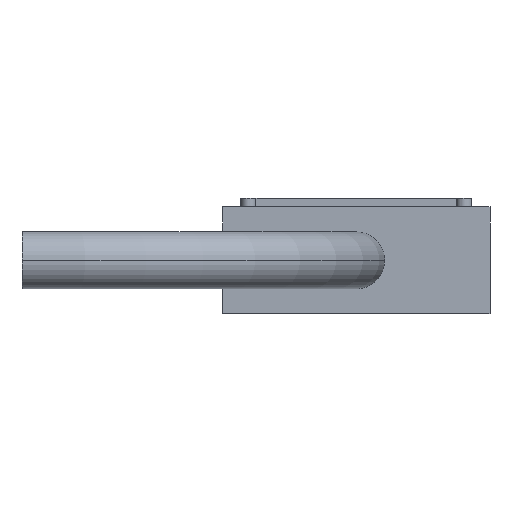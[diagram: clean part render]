
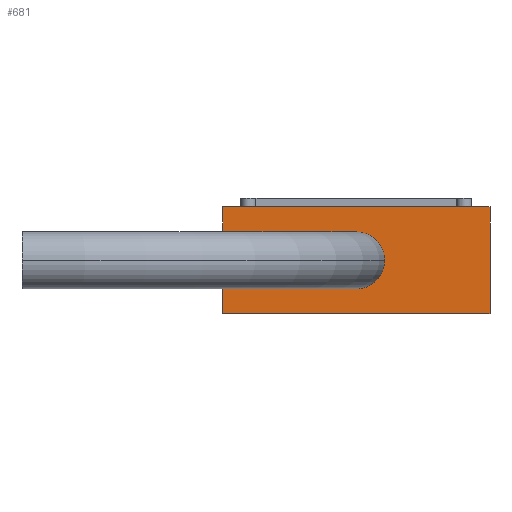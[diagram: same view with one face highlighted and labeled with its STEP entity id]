
A CAD part, front view. The second image highlights one B-rep face of the part: STEP entity #681.
In plain terms, the highlighted planar face has unit normal (0, -1, 0).
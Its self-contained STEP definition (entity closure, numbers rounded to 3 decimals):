
#31 = VECTOR ( 'NONE', #1766, 1000. ) ;
#66 = AXIS2_PLACEMENT_3D ( 'NONE', #1727, #1758, #1759 ) ;
#104 = AXIS2_PLACEMENT_3D ( 'NONE', #2257, #2258, #2259 ) ;
#143 = VECTOR ( 'NONE', #1889, 1000. ) ;
#159 = VECTOR ( 'NONE', #1763, 1000. ) ;
#169 = VECTOR ( 'NONE', #1904, 1000. ) ;
#261 = AXIS2_PLACEMENT_3D ( 'NONE', #1214, #1215, #1216 ) ;
#276 = FACE_BOUND ( 'NONE', #3287, .T. ) ;
#421 = FACE_OUTER_BOUND ( 'NONE', #3288, .T. ) ;
#681 = ADVANCED_FACE ( 'NONE', ( #276, #421 ), #1213, .T. ) ;
#850 = EDGE_CURVE ( 'NONE', #2514, #2522, #1039, .T. ) ;
#851 = EDGE_CURVE ( 'NONE', #2604, #2607, #1761, .T. ) ;
#852 = EDGE_CURVE ( 'NONE', #2608, #2603, #1764, .T. ) ;
#893 = EDGE_CURVE ( 'NONE', #2607, #2608, #1887, .T. ) ;
#898 = EDGE_CURVE ( 'NONE', #2603, #2604, #1902, .T. ) ;
#1010 = EDGE_CURVE ( 'NONE', #2522, #2514, #1107, .T. ) ;
#1039 = CIRCLE ( 'NONE', #66, 4.25 ) ;
#1107 = CIRCLE ( 'NONE', #104, 4.25 ) ;
#1213 = PLANE ( 'NONE',  #261 ) ;
#1214 = CARTESIAN_POINT ( 'NONE',  ( 0., 0., 0. ) ) ;
#1215 = DIRECTION ( 'NONE',  ( 0., -1., 0. ) ) ;
#1216 = DIRECTION ( 'NONE',  ( 0., 0., -1. ) ) ;
#1727 = CARTESIAN_POINT ( 'NONE',  ( 0., 0., 0. ) ) ;
#1758 = DIRECTION ( 'NONE',  ( 0., -1., 0. ) ) ;
#1759 = DIRECTION ( 'NONE',  ( 0., 0., -1. ) ) ;
#1761 = LINE ( 'NONE', #1762, #159 ) ;
#1762 = CARTESIAN_POINT ( 'NONE',  ( -20., 0., 8. ) ) ;
#1763 = DIRECTION ( 'NONE',  ( 0., 0., 1. ) ) ;
#1764 = LINE ( 'NONE', #1765, #31 ) ;
#1765 = CARTESIAN_POINT ( 'NONE',  ( 20., 0., 8. ) ) ;
#1766 = DIRECTION ( 'NONE',  ( 0., 0., -1. ) ) ;
#1887 = LINE ( 'NONE', #1888, #143 ) ;
#1888 = CARTESIAN_POINT ( 'NONE',  ( -20., 0., 8. ) ) ;
#1889 = DIRECTION ( 'NONE',  ( 1., 0., 0. ) ) ;
#1902 = LINE ( 'NONE', #1903, #169 ) ;
#1903 = CARTESIAN_POINT ( 'NONE',  ( -20., 0., -8. ) ) ;
#1904 = DIRECTION ( 'NONE',  ( -1., 0., 0. ) ) ;
#2257 = CARTESIAN_POINT ( 'NONE',  ( 0., 0., 0. ) ) ;
#2258 = DIRECTION ( 'NONE',  ( 0., -1., 0. ) ) ;
#2259 = DIRECTION ( 'NONE',  ( 0., 0., -1. ) ) ;
#2276 = CARTESIAN_POINT ( 'NONE',  ( -4.25, 0., 0. ) ) ;
#2284 = CARTESIAN_POINT ( 'NONE',  ( 4.25, 0., 0. ) ) ;
#2369 = CARTESIAN_POINT ( 'NONE',  ( 20., 0., -8. ) ) ;
#2370 = CARTESIAN_POINT ( 'NONE',  ( -20., 0., -8. ) ) ;
#2373 = CARTESIAN_POINT ( 'NONE',  ( -20., 0., 8. ) ) ;
#2374 = CARTESIAN_POINT ( 'NONE',  ( 20., 0., 8. ) ) ;
#2514 = VERTEX_POINT ( 'NONE', #2276 ) ;
#2522 = VERTEX_POINT ( 'NONE', #2284 ) ;
#2603 = VERTEX_POINT ( 'NONE', #2369 ) ;
#2604 = VERTEX_POINT ( 'NONE', #2370 ) ;
#2607 = VERTEX_POINT ( 'NONE', #2373 ) ;
#2608 = VERTEX_POINT ( 'NONE', #2374 ) ;
#3075 = ORIENTED_EDGE ( 'NONE', *, *, #851, .F. ) ;
#3076 = ORIENTED_EDGE ( 'NONE', *, *, #893, .F. ) ;
#3077 = ORIENTED_EDGE ( 'NONE', *, *, #1010, .F. ) ;
#3078 = ORIENTED_EDGE ( 'NONE', *, *, #898, .F. ) ;
#3079 = ORIENTED_EDGE ( 'NONE', *, *, #850, .F. ) ;
#3080 = ORIENTED_EDGE ( 'NONE', *, *, #852, .F. ) ;
#3287 = EDGE_LOOP ( 'NONE', ( #3079, #3077 ) ) ;
#3288 = EDGE_LOOP ( 'NONE', ( #3080, #3076, #3075, #3078 ) ) ;
